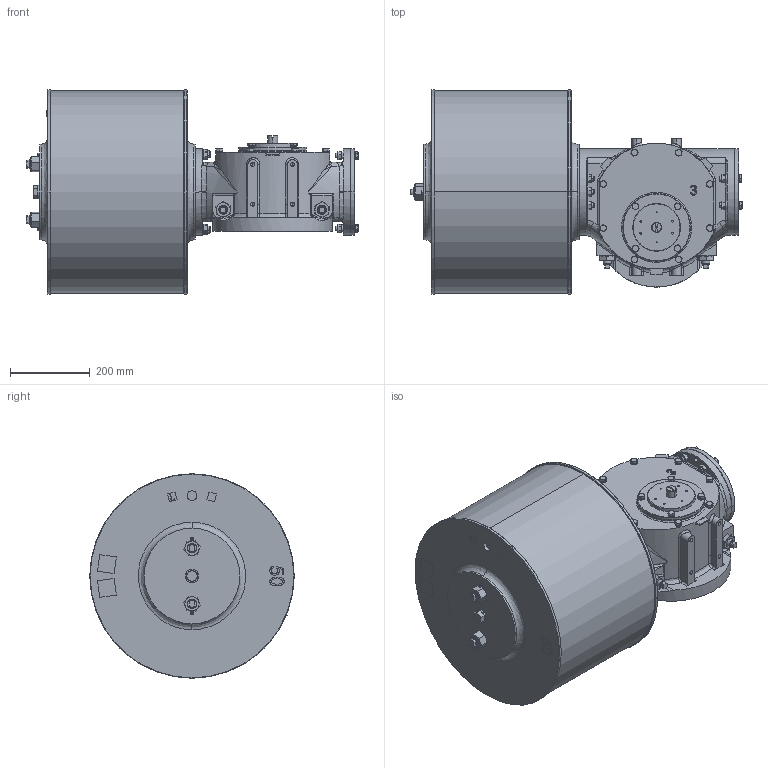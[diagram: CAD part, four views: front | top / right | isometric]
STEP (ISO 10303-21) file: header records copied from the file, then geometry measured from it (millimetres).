
FILE_DESCRIPTION (( 'STEP AP203' ), '1' );
FILE_NAME ('VTS3-500.STEP', '2023-01-01T09:11:06', ( '' ), ( '' ), 'SwSTEP 2.0', 'SolidWorks 2020', '' );
FILE_SCHEMA (( 'CONFIG_CONTROL_DESIGN' ));
Length unit declared in the file: millimetre
Products named in the file (1): VTS3-500
Bounding box: 834.68 x 514 x 514 mm (x, y, z)
Volume: 92316810.2 mm3; surface area: 1677239.8 mm2
Topology: 1 solids, 6 shells, 1653 faces, 4270 edges, 2695 vertices
Faces by surface type: plane 694, cylinder 469, cone 341, bspline 149
Entity records: 66721 total; most frequent: CARTESIAN_POINT 27976, ORIENTED_EDGE 8442, DIRECTION 7696, EDGE_CURVE 4221, AXIS2_PLACEMENT_3D 3011, VERTEX_POINT 2695, EDGE_LOOP 1822, LINE 1674
